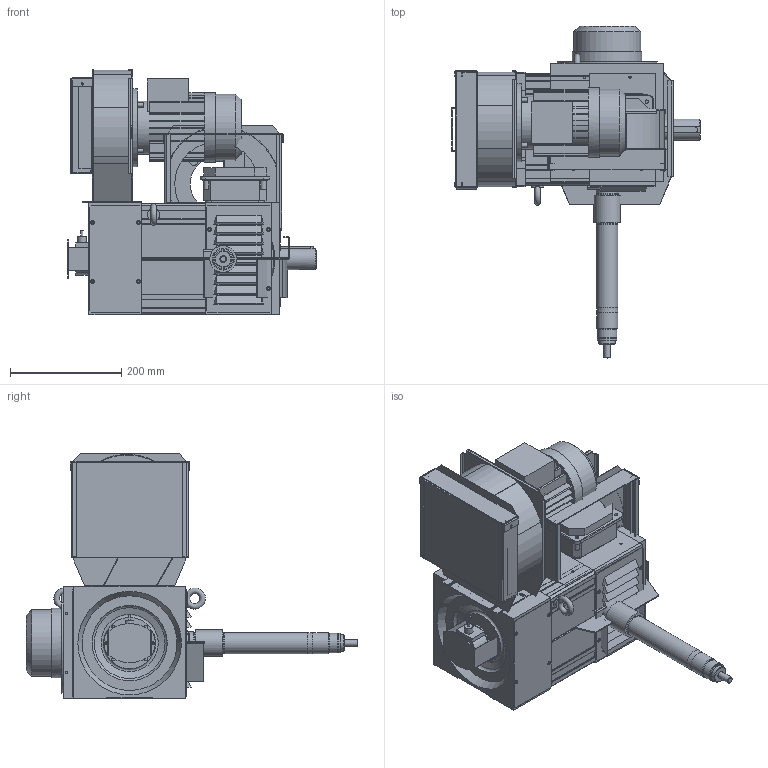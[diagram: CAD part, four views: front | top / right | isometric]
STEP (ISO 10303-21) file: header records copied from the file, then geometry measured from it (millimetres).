
FILE_DESCRIPTION( ( 'STEP AP203' ), '1' );
FILE_NAME( 'C:/Documents and Settings/JVillen/Mis documentos/PLANOLS/Planols vigents/MAC QI-QE/Mac100/Cj. Motor Simplificat/MAC QI/MAC-QI 100 S/MAC QI 100 S B5.stp', '2008-03-13T08:15:18', ( ' ' ), ( ' ' ), 'XStep 1.0', ' ', ' ' );
FILE_SCHEMA( ( 'CONFIG_CONTROL_DESIGN) ( )' ) );
Length unit declared in the file: metre
Products named in the file (25): Assem1; Assem2; 1; 2; 3; 4; 5; 6; 7; 8; 9; 10; 11; 12; 13; 14; 15; 16; 17; 18; 19; 20; 21; 22; 23
Bounding box: 446 x 596 x 441 mm (x, y, z)
Volume: 34839167.4 mm3; surface area: 3207157.4 mm2
Topology: 59 solids, 59 shells, 2009 faces, 4985 edges, 3318 vertices
Faces by surface type: plane 1288, cylinder 652, torus 35, cone 34
Full cylindrical faces by diameter (mm): 2.459 x4, 3 x6, 3.242 x10, 3.803 x2, 4 x6, 4.134 x48, 5.5 x4, 6 x24, 7 x20, 8 x19, 8.5 x12, 9 x8, 10.106 x2, 12 x16, 15 x20, 15.245 x2, 18 x2, 22 x3, 26.211 x4, 30 x4, 33 x2, 34.6 x2, 35 x4, 36 x2, 37.6 x4, 37.8 x2, 38 x4, 39.6 x2, 39.8 x2, 40 x2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
Entity records: 26044 total; most frequent: CARTESIAN_POINT 4434, DIRECTION 4374, ORIENTED_EDGE 3870, EDGE_CURVE 1935, AXIS2_PLACEMENT_3D 1548, VERTEX_POINT 1374, LINE 1278, VECTOR 1278
